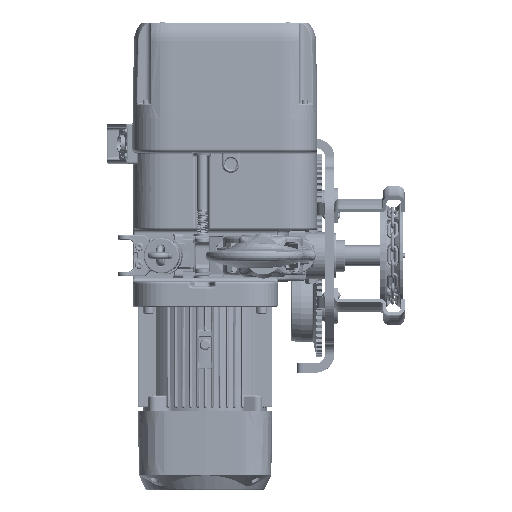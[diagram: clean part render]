
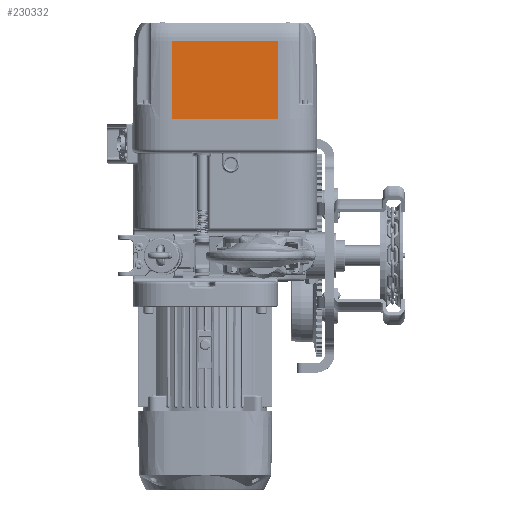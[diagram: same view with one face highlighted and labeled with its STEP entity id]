
A CAD part, front view. The second image highlights one B-rep face of the part: STEP entity #230332.
In plain terms, the highlighted planar face has unit normal (0, -1, 0.018).
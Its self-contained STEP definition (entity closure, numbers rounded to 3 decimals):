
#7718 = VERTEX_POINT ( 'NONE', #197733 ) ;
#8178 = DIRECTION ( 'NONE',  ( -1., 0., 0. ) ) ;
#28440 = EDGE_CURVE ( 'NONE', #159529, #171841, #190122, .T. ) ;
#40358 = PLANE ( 'NONE',  #40752 ) ;
#40752 = AXIS2_PLACEMENT_3D ( 'NONE', #132028, #65870, #227931 ) ;
#47241 = ORIENTED_EDGE ( 'NONE', *, *, #28440, .T. ) ;
#54967 = DIRECTION ( 'NONE',  ( -1., 0., 0. ) ) ;
#65870 = DIRECTION ( 'NONE',  ( 0., -1., 0.017 ) ) ;
#73418 = VECTOR ( 'NONE', #8178, 1000. ) ;
#77470 = CARTESIAN_POINT ( 'NONE',  ( 89.882, -130.193, 132.162 ) ) ;
#78242 = EDGE_CURVE ( 'NONE', #159529, #7718, #265975, .T. ) ;
#79939 = CARTESIAN_POINT ( 'NONE',  ( 89.882, -132.5, 0. ) ) ;
#109173 = ORIENTED_EDGE ( 'NONE', *, *, #270951, .T. ) ;
#112780 = CARTESIAN_POINT ( 'NONE',  ( 89.882, -130.193, 132.162 ) ) ;
#132028 = CARTESIAN_POINT ( 'NONE',  ( 0., -132.5, 0. ) ) ;
#145656 = VECTOR ( 'NONE', #54967, 1000. ) ;
#159529 = VERTEX_POINT ( 'NONE', #112780 ) ;
#162352 = ORIENTED_EDGE ( 'NONE', *, *, #188943, .F. ) ;
#171841 = VERTEX_POINT ( 'NONE', #181930 ) ;
#172819 = ORIENTED_EDGE ( 'NONE', *, *, #78242, .F. ) ;
#175654 = VECTOR ( 'NONE', #216514, 1000. ) ;
#180726 = EDGE_LOOP ( 'NONE', ( #47241, #109173, #162352, #172819 ) ) ;
#181930 = CARTESIAN_POINT ( 'NONE',  ( -89.882, -130.193, 132.162 ) ) ;
#188943 = EDGE_CURVE ( 'NONE', #7718, #271938, #213846, .T. ) ;
#190122 = LINE ( 'NONE', #77470, #145656 ) ;
#195622 = LINE ( 'NONE', #212208, #197031 ) ;
#197031 = VECTOR ( 'NONE', #215194, 1000. ) ;
#197733 = CARTESIAN_POINT ( 'NONE',  ( 89.882, -132.5, 0. ) ) ;
#212208 = CARTESIAN_POINT ( 'NONE',  ( -89.882, -132.5, 0. ) ) ;
#213846 = LINE ( 'NONE', #236279, #73418 ) ;
#215194 = DIRECTION ( 'NONE',  ( 0., -0.017, -1. ) ) ;
#216514 = DIRECTION ( 'NONE',  ( 0., -0.017, -1. ) ) ;
#218167 = CARTESIAN_POINT ( 'NONE',  ( -89.882, -132.5, 0. ) ) ;
#227931 = DIRECTION ( 'NONE',  ( 0., -0.017, -1. ) ) ;
#230332 = ADVANCED_FACE ( 'NONE', ( #248948 ), #40358, .T. ) ;
#236279 = CARTESIAN_POINT ( 'NONE',  ( 0., -132.5, 0. ) ) ;
#248948 = FACE_OUTER_BOUND ( 'NONE', #180726, .T. ) ;
#265975 = LINE ( 'NONE', #79939, #175654 ) ;
#270951 = EDGE_CURVE ( 'NONE', #171841, #271938, #195622, .T. ) ;
#271938 = VERTEX_POINT ( 'NONE', #218167 ) ;
